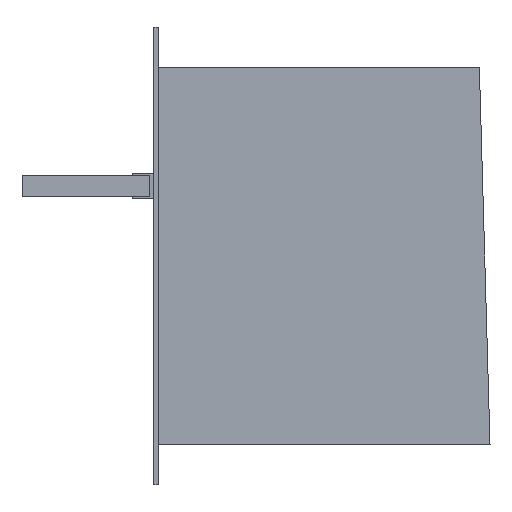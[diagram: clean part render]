
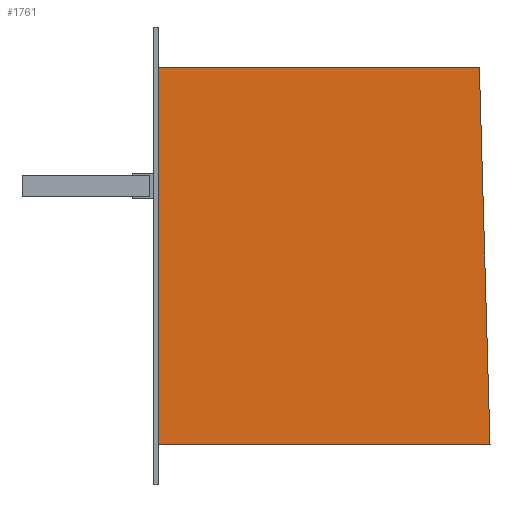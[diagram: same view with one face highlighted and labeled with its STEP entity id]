
A CAD part, left-side view. The second image highlights one B-rep face of the part: STEP entity #1761.
In plain terms, the highlighted planar face has unit normal (-1, 0, 0).
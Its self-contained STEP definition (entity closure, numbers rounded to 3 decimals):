
#33 = DIRECTION ( 'NONE',  ( 0., 1., 0. ) ) ;
#96 = CARTESIAN_POINT ( 'NONE',  ( -1841., -151., 88.5 ) ) ;
#104 = CARTESIAN_POINT ( 'NONE',  ( -1841., -156., -88.5 ) ) ;
#234 = PLANE ( 'NONE',  #275 ) ;
#275 = AXIS2_PLACEMENT_3D ( 'NONE', #834, #1442, #1298 ) ;
#349 = LINE ( 'NONE', #931, #494 ) ;
#358 = VERTEX_POINT ( 'NONE', #670 ) ;
#382 = LINE ( 'NONE', #96, #1577 ) ;
#395 = VECTOR ( 'NONE', #580, 1000. ) ;
#436 = CARTESIAN_POINT ( 'NONE',  ( -1841., 0., 88.5 ) ) ;
#448 = EDGE_CURVE ( 'NONE', #358, #1787, #1482, .T. ) ;
#494 = VECTOR ( 'NONE', #33, 1000. ) ;
#569 = ORIENTED_EDGE ( 'NONE', *, *, #1849, .T. ) ;
#575 = EDGE_LOOP ( 'NONE', ( #985, #956, #569, #1405 ) ) ;
#580 = DIRECTION ( 'NONE',  ( 0., 0., -1. ) ) ;
#670 = CARTESIAN_POINT ( 'NONE',  ( -1841., 0., 88.5 ) ) ;
#690 = DIRECTION ( 'NONE',  ( 0., -1., 0. ) ) ;
#702 = CARTESIAN_POINT ( 'NONE',  ( -1841., -151., 88.5 ) ) ;
#798 = CARTESIAN_POINT ( 'NONE',  ( -1841., 0., -88.5 ) ) ;
#834 = CARTESIAN_POINT ( 'NONE',  ( -1841., 2., 107.5 ) ) ;
#854 = CARTESIAN_POINT ( 'NONE',  ( -1841., 0., -88.5 ) ) ;
#931 = CARTESIAN_POINT ( 'NONE',  ( -1841., 0., 88.5 ) ) ;
#956 = ORIENTED_EDGE ( 'NONE', *, *, #1737, .T. ) ;
#985 = ORIENTED_EDGE ( 'NONE', *, *, #1915, .T. ) ;
#990 = FACE_OUTER_BOUND ( 'NONE', #575, .T. ) ;
#1291 = VECTOR ( 'NONE', #690, 1000. ) ;
#1298 = DIRECTION ( 'NONE',  ( 0., 0., -1. ) ) ;
#1315 = DIRECTION ( 'NONE',  ( 0., 0.028, 1. ) ) ;
#1405 = ORIENTED_EDGE ( 'NONE', *, *, #448, .T. ) ;
#1442 = DIRECTION ( 'NONE',  ( 1., 0., 0. ) ) ;
#1482 = LINE ( 'NONE', #436, #395 ) ;
#1577 = VECTOR ( 'NONE', #1315, 1000. ) ;
#1589 = LINE ( 'NONE', #854, #1291 ) ;
#1694 = VERTEX_POINT ( 'NONE', #104 ) ;
#1717 = VERTEX_POINT ( 'NONE', #702 ) ;
#1737 = EDGE_CURVE ( 'NONE', #1694, #1717, #382, .T. ) ;
#1761 = ADVANCED_FACE ( 'NONE', ( #990 ), #234, .F. ) ;
#1787 = VERTEX_POINT ( 'NONE', #798 ) ;
#1849 = EDGE_CURVE ( 'NONE', #1717, #358, #349, .T. ) ;
#1915 = EDGE_CURVE ( 'NONE', #1787, #1694, #1589, .T. ) ;
